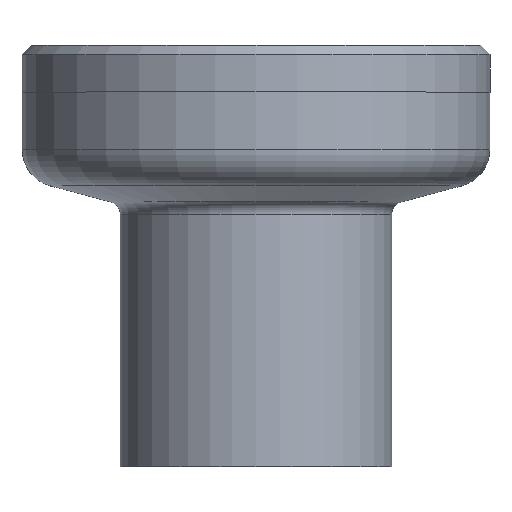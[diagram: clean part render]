
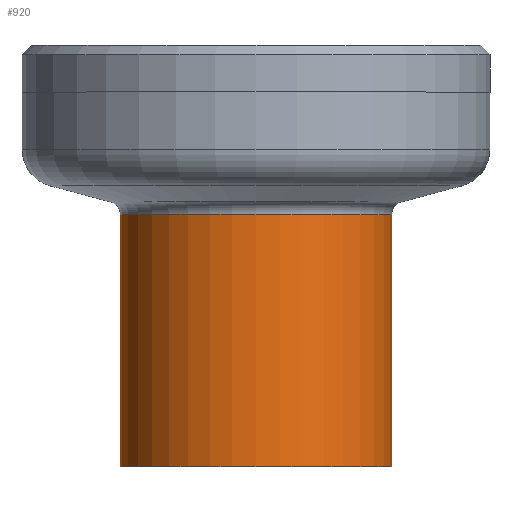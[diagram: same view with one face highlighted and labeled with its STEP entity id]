
A CAD part, top view. The second image highlights one B-rep face of the part: STEP entity #920.
In plain terms, the highlighted cylindrical face has radius 7.25 mm (diameter 14.5 mm), a partial arc.
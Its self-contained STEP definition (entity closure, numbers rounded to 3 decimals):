
#34 = VERTEX_POINT ( 'NONE', #180 ) ;
#118 = VERTEX_POINT ( 'NONE', #556 ) ;
#123 = ORIENTED_EDGE ( 'NONE', *, *, #802, .F. ) ;
#125 = VECTOR ( 'NONE', #843, 1000. ) ;
#131 = DIRECTION ( 'NONE',  ( 1., 0., 0. ) ) ;
#180 = CARTESIAN_POINT ( 'NONE',  ( -7.25, 13.463, 0. ) ) ;
#200 = FACE_OUTER_BOUND ( 'NONE', #208, .T. ) ;
#208 = EDGE_LOOP ( 'NONE', ( #807, #226, #123, #339 ) ) ;
#223 = VERTEX_POINT ( 'NONE', #363 ) ;
#226 = ORIENTED_EDGE ( 'NONE', *, *, #570, .T. ) ;
#236 = CARTESIAN_POINT ( 'NONE',  ( 0., 13.463, 0. ) ) ;
#250 = DIRECTION ( 'NONE',  ( 1., 0., 0. ) ) ;
#318 = EDGE_CURVE ( 'NONE', #223, #34, #686, .T. ) ;
#323 = AXIS2_PLACEMENT_3D ( 'NONE', #352, #640, #131 ) ;
#339 = ORIENTED_EDGE ( 'NONE', *, *, #496, .F. ) ;
#352 = CARTESIAN_POINT ( 'NONE',  ( 0., 0., 0. ) ) ;
#363 = CARTESIAN_POINT ( 'NONE',  ( 7.25, 13.463, 0. ) ) ;
#392 = LINE ( 'NONE', #558, #451 ) ;
#445 = CARTESIAN_POINT ( 'NONE',  ( -7.25, 0., 0. ) ) ;
#451 = VECTOR ( 'NONE', #683, 1000. ) ;
#463 = DIRECTION ( 'NONE',  ( 0., -1., 0. ) ) ;
#496 = EDGE_CURVE ( 'NONE', #223, #118, #925, .T. ) ;
#501 = CIRCLE ( 'NONE', #323, 7.25 ) ;
#556 = CARTESIAN_POINT ( 'NONE',  ( 7.25, 0., 0. ) ) ;
#558 = CARTESIAN_POINT ( 'NONE',  ( -7.25, 0., 0. ) ) ;
#561 = CYLINDRICAL_SURFACE ( 'NONE', #804, 7.25 ) ;
#570 = EDGE_CURVE ( 'NONE', #34, #760, #392, .T. ) ;
#640 = DIRECTION ( 'NONE',  ( 0., -1., 0. ) ) ;
#676 = DIRECTION ( 'NONE',  ( 1., 0., 0. ) ) ;
#683 = DIRECTION ( 'NONE',  ( 0., -1., 0. ) ) ;
#686 = CIRCLE ( 'NONE', #947, 7.25 ) ;
#760 = VERTEX_POINT ( 'NONE', #445 ) ;
#802 = EDGE_CURVE ( 'NONE', #118, #760, #501, .T. ) ;
#804 = AXIS2_PLACEMENT_3D ( 'NONE', #917, #463, #250 ) ;
#807 = ORIENTED_EDGE ( 'NONE', *, *, #318, .T. ) ;
#839 = DIRECTION ( 'NONE',  ( 0., -1., 0. ) ) ;
#843 = DIRECTION ( 'NONE',  ( 0., -1., 0. ) ) ;
#902 = CARTESIAN_POINT ( 'NONE',  ( 7.25, 0., 0. ) ) ;
#917 = CARTESIAN_POINT ( 'NONE',  ( 0., 0., 0. ) ) ;
#920 = ADVANCED_FACE ( 'NONE', ( #200 ), #561, .T. ) ;
#925 = LINE ( 'NONE', #902, #125 ) ;
#947 = AXIS2_PLACEMENT_3D ( 'NONE', #236, #839, #676 ) ;
